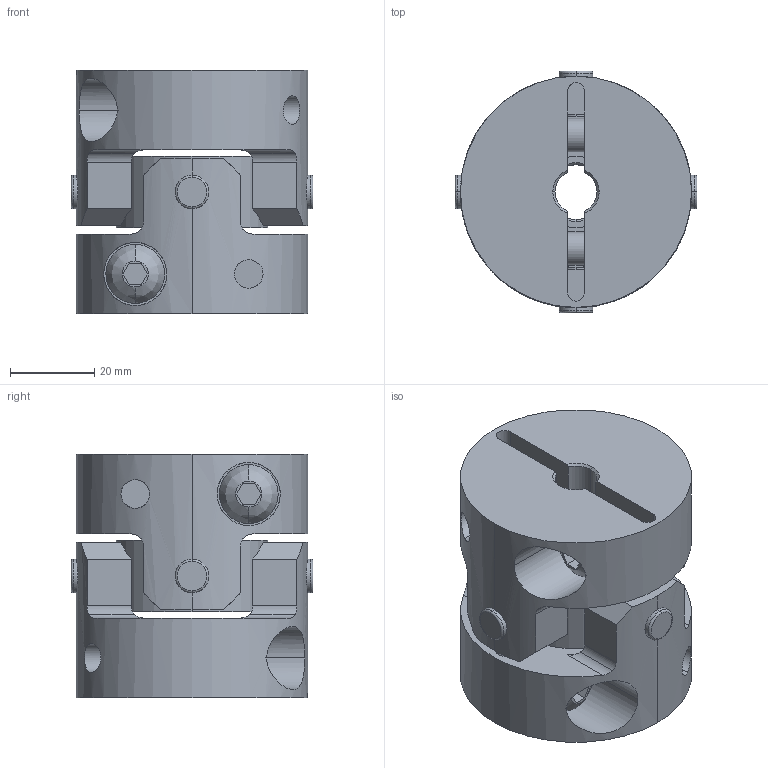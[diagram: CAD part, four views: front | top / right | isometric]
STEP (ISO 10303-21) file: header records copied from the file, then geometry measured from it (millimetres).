
FILE_DESCRIPTION((''),'2;1');
FILE_NAME('UA-55C-10×13.stp','2013-05-22T11:50:50',(''),(''),'AutoCAD STEP 2000i','AutoCAD 2000i',', , ');
FILE_SCHEMA(('CONFIG_CONTROL_DESIGN'));
Length unit declared in the file: millimetre
Products named in the file (6): UA-55C-10×10; 忣兜1; UA-5502-D10-1; BTN-M8; UA-5502-D10; UA55-SEN
Assembly tree (6 placements, depth 3):
  UA-55C-10×10
    忣兜1
    UA-5502-D10-1
      BTN-M8
    UA-5502-D10
      BTN-M8
    UA55-SEN
Bounding box: 57.55 x 57.55 x 58 mm (x, y, z)
Volume: 101074.7 mm3; surface area: 31892.1 mm2
Topology: 1 solids, 1 shells, 206 faces, 554 edges, 364 vertices
Faces by surface type: cylinder 96, plane 78, cone 16, bspline 8, torus 8
Entity records: 8383 total; most frequent: CARTESIAN_POINT 3067, ORIENTED_EDGE 1108, DIRECTION 1064, EDGE_CURVE 554, AXIS2_PLACEMENT_3D 409, VERTEX_POINT 364, VECTOR 246, LINE 246
